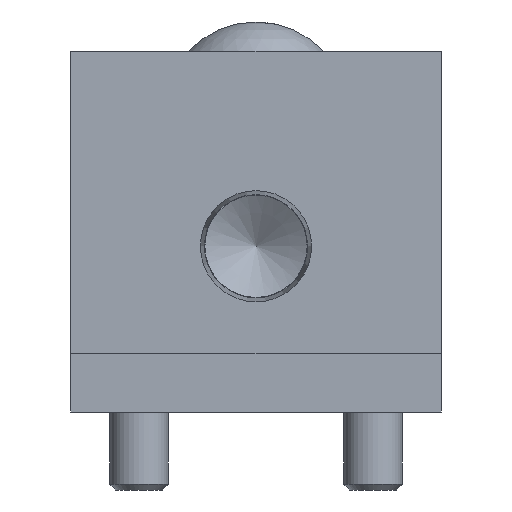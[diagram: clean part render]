
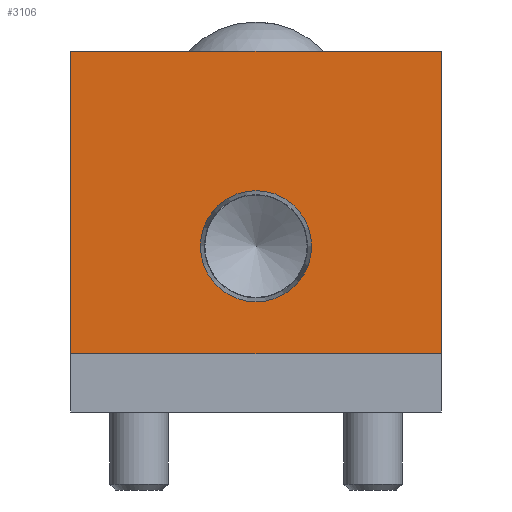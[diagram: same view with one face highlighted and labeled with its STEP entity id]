
A CAD part, front view. The second image highlights one B-rep face of the part: STEP entity #3106.
In plain terms, the highlighted planar face has unit normal (0, -1, 0).
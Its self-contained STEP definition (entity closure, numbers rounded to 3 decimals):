
#258=FACE_BOUND('',#670,.T.);
#362=CIRCLE('',#3323,5.704);
#459=FACE_OUTER_BOUND('',#669,.T.);
#669=EDGE_LOOP('',(#2089,#2090,#2091,#2092));
#670=EDGE_LOOP('',(#2093));
#982=LINE('',#4546,#1200);
#997=LINE('',#4577,#1215);
#998=LINE('',#4579,#1216);
#999=LINE('',#4580,#1217);
#1200=VECTOR('',#3658,31.);
#1215=VECTOR('',#3681,38.);
#1216=VECTOR('',#3682,38.);
#1217=VECTOR('',#3683,31.);
#1415=VERTEX_POINT('',#4539);
#1418=VERTEX_POINT('',#4544);
#1428=VERTEX_POINT('',#4568);
#1431=VERTEX_POINT('',#4578);
#1432=VERTEX_POINT('',#4581);
#1695=EDGE_CURVE('',#1415,#1418,#982,.T.);
#1710=EDGE_CURVE('',#1415,#1428,#997,.T.);
#1711=EDGE_CURVE('',#1418,#1431,#998,.T.);
#1712=EDGE_CURVE('',#1428,#1431,#999,.T.);
#1713=EDGE_CURVE('',#1432,#1432,#362,.T.);
#2089=ORIENTED_EDGE('',*,*,#1710,.F.);
#2090=ORIENTED_EDGE('',*,*,#1695,.T.);
#2091=ORIENTED_EDGE('',*,*,#1711,.T.);
#2092=ORIENTED_EDGE('',*,*,#1712,.F.);
#2093=ORIENTED_EDGE('',*,*,#1713,.T.);
#2827=PLANE('',#3322);
#3106=ADVANCED_FACE('',(#459,#258),#2827,.T.);
#3322=AXIS2_PLACEMENT_3D('',#4576,#3679,#3680);
#3323=AXIS2_PLACEMENT_3D('',#4582,#3684,#3685);
#3658=DIRECTION('',(0.,0.,1.));
#3679=DIRECTION('center_axis',(0.,-1.,0.));
#3680=DIRECTION('ref_axis',(0.,0.,-1.));
#3681=DIRECTION('',(-1.,0.,0.));
#3682=DIRECTION('',(-1.,0.,0.));
#3683=DIRECTION('',(0.,0.,1.));
#3684=DIRECTION('center_axis',(0.,1.,0.));
#3685=DIRECTION('ref_axis',(1.,0.,0.));
#4539=CARTESIAN_POINT('',(19.,0.,6.));
#4544=CARTESIAN_POINT('',(19.,0.,37.));
#4546=CARTESIAN_POINT('',(19.,0.,0.));
#4568=CARTESIAN_POINT('',(-19.,0.,6.));
#4576=CARTESIAN_POINT('Origin',(19.,0.,0.));
#4577=CARTESIAN_POINT('',(0.,0.,6.));
#4578=CARTESIAN_POINT('',(-19.,0.,37.));
#4579=CARTESIAN_POINT('',(19.,0.,37.));
#4580=CARTESIAN_POINT('',(-19.,0.,0.));
#4581=CARTESIAN_POINT('',(5.704,0.,17.));
#4582=CARTESIAN_POINT('Origin',(0.,0.,17.));
